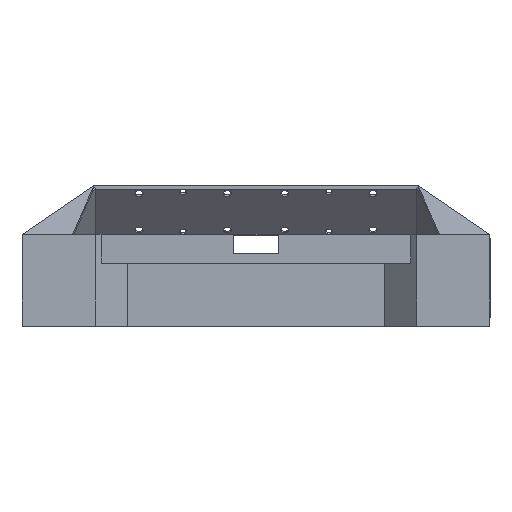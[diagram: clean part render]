
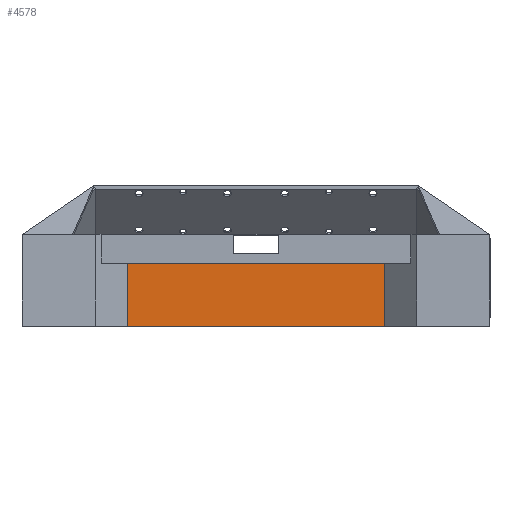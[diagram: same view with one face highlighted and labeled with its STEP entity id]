
A CAD part, front view. The second image highlights one B-rep face of the part: STEP entity #4578.
In plain terms, the highlighted planar face has unit normal (0, -1, 0).
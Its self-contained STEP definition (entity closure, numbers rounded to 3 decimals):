
#137 = VERTEX_POINT ( 'NONE', #6058 ) ;
#407 = DIRECTION ( 'NONE',  ( 0., 0., 1. ) ) ;
#509 = ORIENTED_EDGE ( 'NONE', *, *, #9616, .F. ) ;
#768 = VECTOR ( 'NONE', #3145, 1000. ) ;
#1010 = EDGE_CURVE ( 'NONE', #3670, #137, #4488, .T. ) ;
#1107 = FACE_OUTER_BOUND ( 'NONE', #1557, .T. ) ;
#1394 = CARTESIAN_POINT ( 'NONE',  ( 56., -131., 40. ) ) ;
#1441 = LINE ( 'NONE', #1394, #768 ) ;
#1557 = EDGE_LOOP ( 'NONE', ( #509, #5173, #10056, #8971 ) ) ;
#1980 = DIRECTION ( 'NONE',  ( 0., 0., -1. ) ) ;
#2583 = EDGE_CURVE ( 'NONE', #137, #2827, #7750, .T. ) ;
#2827 = VERTEX_POINT ( 'NONE', #7170 ) ;
#2933 = VERTEX_POINT ( 'NONE', #4163 ) ;
#3145 = DIRECTION ( 'NONE',  ( 0., 0., -1. ) ) ;
#3576 = CARTESIAN_POINT ( 'NONE',  ( 0., -131., 0. ) ) ;
#3670 = VERTEX_POINT ( 'NONE', #5875 ) ;
#3948 = AXIS2_PLACEMENT_3D ( 'NONE', #5260, #7766, #407 ) ;
#4163 = CARTESIAN_POINT ( 'NONE',  ( 56., -131., 27.5 ) ) ;
#4488 = LINE ( 'NONE', #6152, #6571 ) ;
#4578 = ADVANCED_FACE ( 'NONE', ( #1107 ), #9393, .F. ) ;
#5173 = ORIENTED_EDGE ( 'NONE', *, *, #9680, .T. ) ;
#5260 = CARTESIAN_POINT ( 'NONE',  ( 0., -131., 40. ) ) ;
#5875 = CARTESIAN_POINT ( 'NONE',  ( -56., -131., 27.5 ) ) ;
#6058 = CARTESIAN_POINT ( 'NONE',  ( -56., -131., 0. ) ) ;
#6152 = CARTESIAN_POINT ( 'NONE',  ( -56., -131., 40. ) ) ;
#6230 = VECTOR ( 'NONE', #8713, 1000. ) ;
#6571 = VECTOR ( 'NONE', #1980, 1000. ) ;
#6734 = DIRECTION ( 'NONE',  ( 1., 0., 0. ) ) ;
#7115 = CARTESIAN_POINT ( 'NONE',  ( 0., -131., 27.5 ) ) ;
#7170 = CARTESIAN_POINT ( 'NONE',  ( 56., -131., 0. ) ) ;
#7750 = LINE ( 'NONE', #3576, #8887 ) ;
#7766 = DIRECTION ( 'NONE',  ( 0., 1., 0. ) ) ;
#8713 = DIRECTION ( 'NONE',  ( -1., 0., 0. ) ) ;
#8887 = VECTOR ( 'NONE', #6734, 1000. ) ;
#8971 = ORIENTED_EDGE ( 'NONE', *, *, #2583, .T. ) ;
#9393 = PLANE ( 'NONE',  #3948 ) ;
#9616 = EDGE_CURVE ( 'NONE', #2933, #2827, #1441, .T. ) ;
#9680 = EDGE_CURVE ( 'NONE', #2933, #3670, #10493, .T. ) ;
#10056 = ORIENTED_EDGE ( 'NONE', *, *, #1010, .T. ) ;
#10493 = LINE ( 'NONE', #7115, #6230 ) ;
